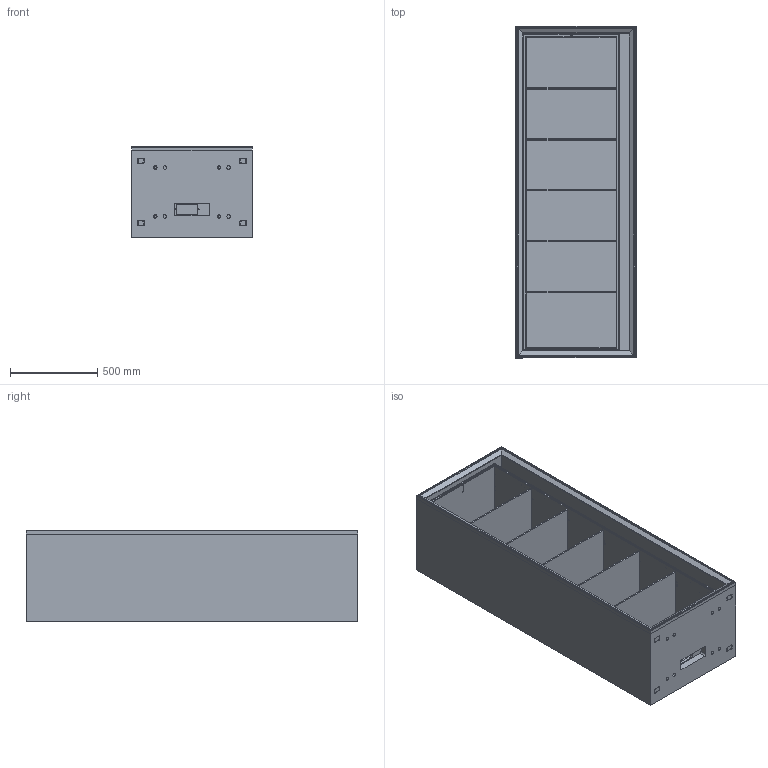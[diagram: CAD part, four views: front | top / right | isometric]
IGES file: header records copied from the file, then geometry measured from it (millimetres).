
Global section: file name: 80083; native system: Autodesk Inventor 2014; preprocessor: unknown; author: Robertom; date: 20140526.112615; units: millimetre
Bounding box: 690 x 1900 x 520 mm (x, y, z)
Volume: 172495671.9 mm3; surface area: 17997293.3 mm2
Topology: 27 solids, 27 shells, 1237 faces, 3661 edges, 2516 vertices
Faces by surface type: bspline 1237
